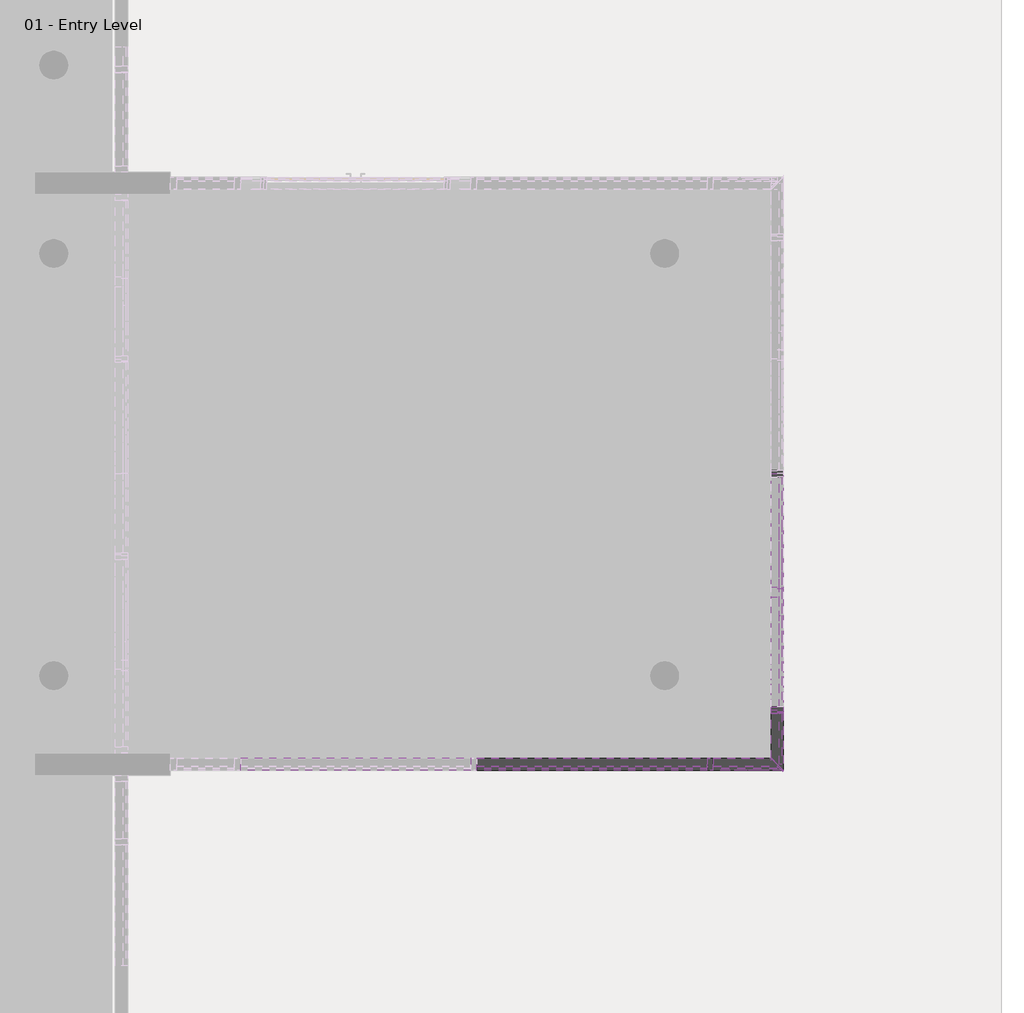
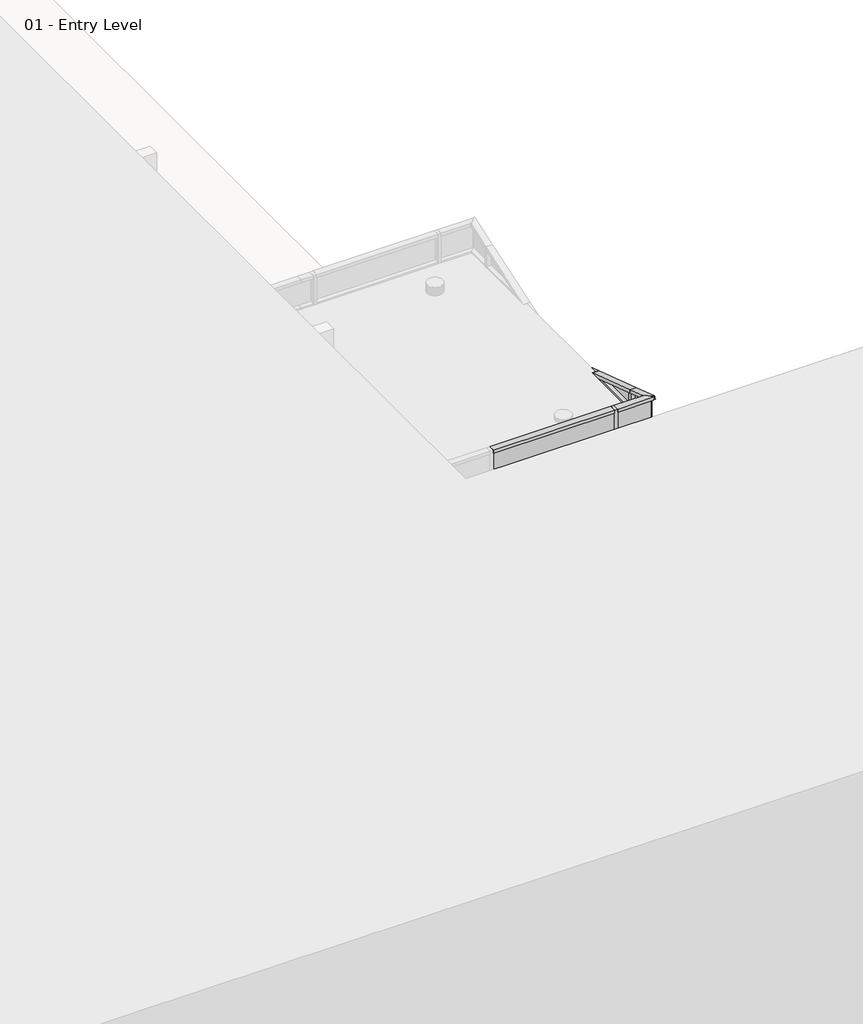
# One storey, part 14 of 35: 79 members, 48 plates.
"""IFC4 building model written with IfcOpenShell, lengths in millimetres."""

from ifc_helpers import new_model, si_unit, origin, place, context, project, spatial, transform, mapped, element, save
from components import member_6e77e263, member_b2bde9e6, member_89bfb2f9, member_7bb0cd3e, member_fce4fd76, member_659f2ef3, member_4067c595, member_9ea90918, member_7a68eee0, member_f22891ba, member_f7040936, member_db3c5f50, member_d798ba6b, system_panel_glazed_1068a10c, system_panel_glazed_a178916c, system_panel_glazed_dff65941, system_panel_glazed_09644247, system_panel_glazed_ee7bb25c, system_panel_glazed_b5016a42, system_panel_glazed_300f1d59, system_panel_glazed_afefc162, system_panel_glazed_c252a688

model = new_model("IFC4")

# Units and contexts
model_context = context("Model", 3, world=origin())
ifc_project = project(units=[si_unit("LENGTHUNIT", "METRE", prefix="MILLI")], contexts=[model_context])

# Site, building, storey
site = spatial("IfcSite", under=ifc_project)
building = spatial("IfcBuilding", under=site)
storey = spatial("IfcBuildingStorey", under=building, Name="01 - Entry Level", Elevation=0.0)

# Members
placement = place(None, origin())
member_shape = member_6e77e263(model_context)
element("IfcMember", 1, ObjectType="Rectangular Mullion : 2.5\" x 5\" rectangular", at=placement, inside=storey, context=model_context, shape_type="MappedRepresentation", body=[
    mapped(member_shape, transform((23947.0115197, 19548.4, 0.0), x_axis=(0.0, 1.0, 0.0), y_axis=(1.0, 0.0, 0.0), z_axis=(0.0, 0.0, -1.0))),
])
element("IfcMember", 2, ObjectType="Rectangular Mullion : 2.5\" x 5\" rectangular", at=placement, inside=storey, context=model_context, shape_type="MappedRepresentation", body=[
    mapped(member_shape, transform((23256.3615197, 16551.2, 0.0), x_axis=(1.0, 0.0, 0.0), y_axis=(0.0, -1.0, 0.0), z_axis=(0.0, 0.0, -1.0))),
])
element("IfcMember", 3, ObjectType="Rectangular Mullion : 2.5\" x 5\" rectangular", at=placement, inside=storey, context=model_context, shape_type="MappedRepresentation", body=[
    mapped(member_shape, transform((23947.0115197, 17110.0, 0.0), x_axis=(0.0, 1.0, 0.0), y_axis=(1.0, 0.0, 0.0), z_axis=(0.0, 0.0, -1.0))),
])
element("IfcMember", 4, ObjectType="Rectangular Mullion : 2.5\" x 5\" rectangular", at=placement, inside=storey, context=model_context, shape_type="MappedRepresentation", body=[
    mapped(member_shape, transform((23947.0115197, 19548.4, 609.6), x_axis=(0.0, 1.0, 0.0), y_axis=(1.0, 0.0, 0.0), z_axis=(0.0, 0.0, -1.0))),
])
element("IfcMember", 5, ObjectType="Rectangular Mullion : 2.5\" x 5\" rectangular", at=placement, inside=storey, context=model_context, shape_type="MappedRepresentation", body=[
    mapped(member_shape, transform((23947.0115197, 19548.4, 1219.2), x_axis=(0.0, 1.0, 0.0), y_axis=(1.0, 0.0, 0.0), z_axis=(0.0, 0.0, -1.0))),
])
element("IfcMember", 6, ObjectType="Rectangular Mullion : 2.5\" x 5\" rectangular", at=placement, inside=storey, context=model_context, shape_type="MappedRepresentation", body=[
    mapped(member_shape, transform((23947.0115197, 19548.4, 1828.8), x_axis=(0.0, 1.0, 0.0), y_axis=(1.0, 0.0, 0.0), z_axis=(0.0, 0.0, -1.0))),
])
element("IfcMember", 7, ObjectType="Rectangular Mullion : 2.5\" x 5\" rectangular", at=placement, inside=storey, context=model_context, shape_type="MappedRepresentation", body=[
    mapped(member_shape, transform((23947.0115197, 19548.4, 2438.4), x_axis=(0.0, 1.0, 0.0), y_axis=(1.0, 0.0, 0.0), z_axis=(0.0, 0.0, -1.0))),
])
element("IfcMember", 8, ObjectType="Rectangular Mullion : 2.5\" x 5\" rectangular", at=placement, inside=storey, context=model_context, shape_type="MappedRepresentation", body=[
    mapped(member_shape, transform((23947.0115197, 19548.4, 3048.0), x_axis=(0.0, 1.0, 0.0), y_axis=(1.0, 0.0, 0.0), z_axis=(0.0, 0.0, -1.0))),
])
element("IfcMember", 9, ObjectType="Rectangular Mullion : 2.5\" x 5\" rectangular", at=placement, inside=storey, context=model_context, shape_type="MappedRepresentation", body=[
    mapped(member_shape, transform((23256.3615197, 16551.2, 609.6), x_axis=(1.0, 0.0, 0.0), y_axis=(0.0, -1.0, 0.0), z_axis=(0.0, 0.0, -1.0))),
])
element("IfcMember", 10, ObjectType="Rectangular Mullion : 2.5\" x 5\" rectangular", at=placement, inside=storey, context=model_context, shape_type="MappedRepresentation", body=[
    mapped(member_shape, transform((23256.3615197, 16551.2, 1219.2), x_axis=(1.0, 0.0, 0.0), y_axis=(0.0, -1.0, 0.0), z_axis=(0.0, 0.0, -1.0))),
])
element("IfcMember", 11, ObjectType="Rectangular Mullion : 2.5\" x 5\" rectangular", at=placement, inside=storey, context=model_context, shape_type="MappedRepresentation", body=[
    mapped(member_shape, transform((23256.3615197, 16551.2, 1828.8), x_axis=(1.0, 0.0, 0.0), y_axis=(0.0, -1.0, 0.0), z_axis=(0.0, 0.0, -1.0))),
])
element("IfcMember", 12, ObjectType="Rectangular Mullion : 2.5\" x 5\" rectangular", at=placement, inside=storey, context=model_context, shape_type="MappedRepresentation", body=[
    mapped(member_shape, transform((23256.3615197, 16551.2, 2438.4), x_axis=(1.0, 0.0, 0.0), y_axis=(0.0, -1.0, 0.0), z_axis=(0.0, 0.0, -1.0))),
])
element("IfcMember", 13, ObjectType="Rectangular Mullion : 2.5\" x 5\" rectangular", at=placement, inside=storey, context=model_context, shape_type="MappedRepresentation", body=[
    mapped(member_shape, transform((23256.3615197, 16551.2, 3048.0), x_axis=(1.0, 0.0, 0.0), y_axis=(0.0, -1.0, 0.0), z_axis=(0.0, 0.0, -1.0))),
])
element("IfcMember", 14, ObjectType="Rectangular Mullion : 2.5\" x 5\" rectangular", at=placement, inside=storey, context=model_context, shape_type="MappedRepresentation", body=[
    mapped(member_shape, transform((23947.0115197, 17110.0, 609.6), x_axis=(0.0, 1.0, 0.0), y_axis=(1.0, 0.0, 0.0), z_axis=(0.0, 0.0, -1.0))),
])
element("IfcMember", 15, ObjectType="Rectangular Mullion : 2.5\" x 5\" rectangular", at=placement, inside=storey, context=model_context, shape_type="MappedRepresentation", body=[
    mapped(member_shape, transform((23947.0115197, 17110.0, 1219.2), x_axis=(0.0, 1.0, 0.0), y_axis=(1.0, 0.0, 0.0), z_axis=(0.0, 0.0, -1.0))),
])
element("IfcMember", 16, ObjectType="Rectangular Mullion : 2.5\" x 5\" rectangular", at=placement, inside=storey, context=model_context, shape_type="MappedRepresentation", body=[
    mapped(member_shape, transform((23947.0115197, 17110.0, 1828.8), x_axis=(0.0, 1.0, 0.0), y_axis=(1.0, 0.0, 0.0), z_axis=(0.0, 0.0, -1.0))),
])
element("IfcMember", 17, ObjectType="Rectangular Mullion : 2.5\" x 5\" rectangular", at=placement, inside=storey, context=model_context, shape_type="MappedRepresentation", body=[
    mapped(member_shape, transform((23947.0115197, 17110.0, 2438.4), x_axis=(0.0, 1.0, 0.0), y_axis=(1.0, 0.0, 0.0), z_axis=(0.0, 0.0, -1.0))),
])
element("IfcMember", 18, ObjectType="Rectangular Mullion : 2.5\" x 5\" rectangular", at=placement, inside=storey, context=model_context, shape_type="MappedRepresentation", body=[
    mapped(member_shape, transform((23947.0115197, 17110.0, 3048.0), x_axis=(0.0, 1.0, 0.0), y_axis=(1.0, 0.0, 0.0), z_axis=(0.0, 0.0, -1.0))),
])
element("IfcMember", 19, ObjectType="Rectangular Mullion : 2.5\" x 5\" rectangular", at=placement, inside=storey, context=model_context, shape_type="MappedRepresentation", body=[
    mapped(member_shape, transform((23947.0115197, 17110.0, 3657.6), x_axis=(0.0, 1.0, 0.0), y_axis=(1.0, 0.0, 0.0), z_axis=(0.0, 0.0, -1.0))),
])
element("IfcMember", 20, ObjectType="Rectangular Mullion : 2.5\" x 5\" rectangular", at=placement, inside=storey, context=model_context, shape_type="MappedRepresentation", body=[
    mapped(member_shape, transform((23947.0115197, 17110.0, 4267.2), x_axis=(0.0, 1.0, 0.0), y_axis=(1.0, 0.0, 0.0), z_axis=(0.0, 0.0, -1.0))),
])
element("IfcMember", 21, ObjectType="Rectangular Mullion : 2.5\" x 5\" rectangular", at=placement, inside=storey, context=model_context, shape_type="MappedRepresentation", body=[
    mapped(member_shape, transform((23947.0115197, 17110.0, 4876.8), x_axis=(0.0, 1.0, 0.0), y_axis=(1.0, 0.0, 0.0), z_axis=(0.0, 0.0, -1.0))),
])
element("IfcMember", 22, ObjectType="Rectangular Mullion : 2.5\" x 5\" rectangular", at=placement, inside=storey, context=model_context, shape_type="MappedRepresentation", body=[
    mapped(member_shape, transform((23947.0115197, 17110.0, 5486.4), x_axis=(0.0, 1.0, 0.0), y_axis=(1.0, 0.0, 0.0), z_axis=(0.0, 0.0, -1.0))),
])
element("IfcMember", 23, ObjectType="Rectangular Mullion : 2.5\" x 5\" rectangular", at=placement, inside=storey, context=model_context, shape_type="MappedRepresentation", body=[
    mapped(member_shape, transform((23947.0115197, 17110.0, 6096.0), x_axis=(0.0, 1.0, 0.0), y_axis=(1.0, 0.0, 0.0), z_axis=(0.0, 0.0, -1.0))),
])
element("IfcMember", 24, ObjectType="Rectangular Mullion : 2.5\" x 5\" rectangular", at=placement, inside=storey, context=model_context, shape_type="MappedRepresentation", body=[
    mapped(member_shape, transform((23256.3615197, 16551.2, 3657.6), x_axis=(1.0, 0.0, 0.0), y_axis=(0.0, -1.0, 0.0), z_axis=(0.0, 0.0, -1.0))),
])
element("IfcMember", 25, ObjectType="Rectangular Mullion : 2.5\" x 5\" rectangular", at=placement, inside=storey, context=model_context, shape_type="MappedRepresentation", body=[
    mapped(member_shape, transform((23256.3615197, 16551.2, 4267.2), x_axis=(1.0, 0.0, 0.0), y_axis=(0.0, -1.0, 0.0), z_axis=(0.0, 0.0, -1.0))),
])
element("IfcMember", 26, ObjectType="Rectangular Mullion : 2.5\" x 5\" rectangular", at=placement, inside=storey, context=model_context, shape_type="MappedRepresentation", body=[
    mapped(member_shape, transform((23256.3615197, 16551.2, 4876.8), x_axis=(1.0, 0.0, 0.0), y_axis=(0.0, -1.0, 0.0), z_axis=(0.0, 0.0, -1.0))),
])
element("IfcMember", 27, ObjectType="Rectangular Mullion : 2.5\" x 5\" rectangular", at=placement, inside=storey, context=model_context, shape_type="MappedRepresentation", body=[
    mapped(member_shape, transform((23256.3615197, 16551.2, 5486.4), x_axis=(1.0, 0.0, 0.0), y_axis=(0.0, -1.0, 0.0), z_axis=(0.0, 0.0, -1.0))),
])
element("IfcMember", 28, ObjectType="Rectangular Mullion : 2.5\" x 5\" rectangular", at=placement, inside=storey, context=model_context, shape_type="MappedRepresentation", body=[
    mapped(member_shape, transform((23256.3615197, 16551.2, 6096.0), x_axis=(1.0, 0.0, 0.0), y_axis=(0.0, -1.0, 0.0), z_axis=(0.0, 0.0, -1.0))),
])
member_2_shape = member_b2bde9e6(model_context)
element("IfcMember", 29, ObjectType="Rectangular Mullion : 2.5\" x 5\" rectangular", at=placement, inside=storey, context=model_context, shape_type="MappedRepresentation", body=[
    mapped(member_2_shape, transform((23947.0115197, 19580.15, 0.0), x_axis=(0.0, 0.0, -1.0), y_axis=(1.0, 0.0, 0.0), z_axis=(0.0, -1.0, 0.0))),
])
element("IfcMember", 30, ObjectType="Rectangular Mullion : 2.5\" x 5\" rectangular", at=placement, inside=storey, context=model_context, shape_type="MappedRepresentation", body=[
    mapped(member_2_shape, transform((23947.0115197, 17141.75, 0.0), x_axis=(0.0, 0.0, -1.0), y_axis=(1.0, 0.0, 0.0), z_axis=(0.0, -1.0, 0.0))),
])
member_3_shape = member_89bfb2f9(model_context)
element("IfcMember", 31, ObjectType="Rectangular Mullion : 2.5\" x 5\" rectangular", at=placement, inside=storey, context=model_context, shape_type="MappedRepresentation", body=[
    mapped(member_3_shape, transform((23224.6115197, 16551.2, 609.6), x_axis=(0.0, 0.0, 1.0), y_axis=(0.0, -1.0, 0.0), z_axis=(1.0, 0.0, 0.0))),
])
element("IfcMember", 32, ObjectType="Rectangular Mullion : 2.5\" x 5\" rectangular", at=placement, inside=storey, context=model_context, shape_type="MappedRepresentation", body=[
    mapped(member_3_shape, transform((23224.6115197, 16551.2, 1219.2), x_axis=(0.0, 0.0, 1.0), y_axis=(0.0, -1.0, 0.0), z_axis=(1.0, 0.0, 0.0))),
])
element("IfcMember", 33, ObjectType="Rectangular Mullion : 2.5\" x 5\" rectangular", at=placement, inside=storey, context=model_context, shape_type="MappedRepresentation", body=[
    mapped(member_3_shape, transform((23224.6115197, 16551.2, 1828.8), x_axis=(0.0, 0.0, 1.0), y_axis=(0.0, -1.0, 0.0), z_axis=(1.0, 0.0, 0.0))),
])
element("IfcMember", 34, ObjectType="Rectangular Mullion : 2.5\" x 5\" rectangular", at=placement, inside=storey, context=model_context, shape_type="MappedRepresentation", body=[
    mapped(member_3_shape, transform((23224.6115197, 16551.2, 2438.4), x_axis=(0.0, 0.0, 1.0), y_axis=(0.0, -1.0, 0.0), z_axis=(1.0, 0.0, 0.0))),
])
element("IfcMember", 35, ObjectType="Rectangular Mullion : 2.5\" x 5\" rectangular", at=placement, inside=storey, context=model_context, shape_type="MappedRepresentation", body=[
    mapped(member_3_shape, transform((23224.6115197, 16551.2, 3048.0), x_axis=(0.0, 0.0, 1.0), y_axis=(0.0, -1.0, 0.0), z_axis=(1.0, 0.0, 0.0))),
])
element("IfcMember", 36, ObjectType="Rectangular Mullion : 2.5\" x 5\" rectangular", at=placement, inside=storey, context=model_context, shape_type="MappedRepresentation", body=[
    mapped(member_3_shape, transform((20786.2115197, 16551.2, 3657.6), x_axis=(0.0, 0.0, 1.0), y_axis=(0.0, -1.0, 0.0), z_axis=(1.0, 0.0, 0.0))),
])
element("IfcMember", 37, ObjectType="Rectangular Mullion : 2.5\" x 5\" rectangular", at=placement, inside=storey, context=model_context, shape_type="MappedRepresentation", body=[
    mapped(member_3_shape, transform((23224.6115197, 16551.2, 3657.6), x_axis=(0.0, 0.0, 1.0), y_axis=(0.0, -1.0, 0.0), z_axis=(1.0, 0.0, 0.0))),
])
element("IfcMember", 38, ObjectType="Rectangular Mullion : 2.5\" x 5\" rectangular", at=placement, inside=storey, context=model_context, shape_type="MappedRepresentation", body=[
    mapped(member_3_shape, transform((20786.2115197, 16551.2, 4267.2), x_axis=(0.0, 0.0, 1.0), y_axis=(0.0, -1.0, 0.0), z_axis=(1.0, 0.0, 0.0))),
])
element("IfcMember", 39, ObjectType="Rectangular Mullion : 2.5\" x 5\" rectangular", at=placement, inside=storey, context=model_context, shape_type="MappedRepresentation", body=[
    mapped(member_3_shape, transform((23224.6115197, 16551.2, 4267.2), x_axis=(0.0, 0.0, 1.0), y_axis=(0.0, -1.0, 0.0), z_axis=(1.0, 0.0, 0.0))),
])
element("IfcMember", 40, ObjectType="Rectangular Mullion : 2.5\" x 5\" rectangular", at=placement, inside=storey, context=model_context, shape_type="MappedRepresentation", body=[
    mapped(member_3_shape, transform((20786.2115197, 16551.2, 4876.8), x_axis=(0.0, 0.0, 1.0), y_axis=(0.0, -1.0, 0.0), z_axis=(1.0, 0.0, 0.0))),
])
element("IfcMember", 41, ObjectType="Rectangular Mullion : 2.5\" x 5\" rectangular", at=placement, inside=storey, context=model_context, shape_type="MappedRepresentation", body=[
    mapped(member_3_shape, transform((23224.6115197, 16551.2, 4876.8), x_axis=(0.0, 0.0, 1.0), y_axis=(0.0, -1.0, 0.0), z_axis=(1.0, 0.0, 0.0))),
])
element("IfcMember", 42, ObjectType="Rectangular Mullion : 2.5\" x 5\" rectangular", at=placement, inside=storey, context=model_context, shape_type="MappedRepresentation", body=[
    mapped(member_3_shape, transform((20786.2115197, 16551.2, 5486.4), x_axis=(0.0, 0.0, 1.0), y_axis=(0.0, -1.0, 0.0), z_axis=(1.0, 0.0, 0.0))),
])
element("IfcMember", 43, ObjectType="Rectangular Mullion : 2.5\" x 5\" rectangular", at=placement, inside=storey, context=model_context, shape_type="MappedRepresentation", body=[
    mapped(member_3_shape, transform((23224.6115197, 16551.2, 5486.4), x_axis=(0.0, 0.0, 1.0), y_axis=(0.0, -1.0, 0.0), z_axis=(1.0, 0.0, 0.0))),
])
element("IfcMember", 44, ObjectType="Rectangular Mullion : 2.5\" x 5\" rectangular", at=placement, inside=storey, context=model_context, shape_type="MappedRepresentation", body=[
    mapped(member_3_shape, transform((20786.2115197, 16551.2, 6096.0), x_axis=(0.0, 0.0, 1.0), y_axis=(0.0, -1.0, 0.0), z_axis=(1.0, 0.0, 0.0))),
])
element("IfcMember", 45, ObjectType="Rectangular Mullion : 2.5\" x 5\" rectangular", at=placement, inside=storey, context=model_context, shape_type="MappedRepresentation", body=[
    mapped(member_3_shape, transform((23224.6115197, 16551.2, 6096.0), x_axis=(0.0, 0.0, 1.0), y_axis=(0.0, -1.0, 0.0), z_axis=(1.0, 0.0, 0.0))),
])
element("IfcMember", 46, ObjectType="Rectangular Mullion : 2.5\" x 5\" rectangular", at=placement, inside=storey, context=model_context, shape_type="MappedRepresentation", body=[
    mapped(member_3_shape, transform((20786.2115197, 16551.2, 6705.6), x_axis=(0.0, 0.0, 1.0), y_axis=(0.0, -1.0, 0.0), z_axis=(1.0, 0.0, 0.0))),
])
element("IfcMember", 47, ObjectType="Rectangular Mullion : 2.5\" x 5\" rectangular", at=placement, inside=storey, context=model_context, shape_type="MappedRepresentation", body=[
    mapped(member_3_shape, transform((23224.6115197, 16551.2, 6705.6), x_axis=(0.0, 0.0, 1.0), y_axis=(0.0, -1.0, 0.0), z_axis=(1.0, 0.0, 0.0))),
])
member_4_shape = member_7bb0cd3e(model_context)
element("IfcMember", 48, ObjectType="Rectangular Mullion : 2.5\" x 5\" rectangular", at=placement, inside=storey, context=model_context, shape_type="MappedRepresentation", body=[
    mapped(member_4_shape, transform((23947.0115197, 19548.4, 6316.1333333), x_axis=(0.0, 0.316227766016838, 0.9486832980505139), y_axis=(1.0, 0.0, 0.0), z_axis=(0.0, 0.9486832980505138, -0.31622776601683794))),
])
member_5_shape = member_fce4fd76(model_context)
element("IfcMember", 49, ObjectType="Rectangular Mullion : 2.5\" x 5\" rectangular", at=placement, inside=storey, context=model_context, shape_type="MappedRepresentation", body=[
    mapped(member_5_shape, transform((23947.0115197, 18380.0, 6705.6), x_axis=(0.0, 0.31622776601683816, 0.9486832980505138), y_axis=(1.0, 0.0, 0.0), z_axis=(0.0, 0.9486832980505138, -0.31622776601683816))),
])
member_6_shape = member_659f2ef3(model_context)
element("IfcMember", 50, ObjectType="Rectangular Mullion : 2.5\" x 5\" rectangular", at=placement, inside=storey, context=model_context, shape_type="MappedRepresentation", body=[
    mapped(member_6_shape, transform((23947.0115197, 18380.0, 6705.6), x_axis=(0.0, 0.0, 1.0), y_axis=(1.0, 0.0, 0.0), z_axis=(0.0, 1.0, 0.0))),
])
member_7_shape = member_4067c595(model_context)
element("IfcMember", 51, ObjectType="Rectangular Mullion : 2.5\" x 5\" rectangular", at=placement, inside=storey, context=model_context, shape_type="MappedRepresentation", body=[
    mapped(member_7_shape, transform((23947.0115197, 17110.0, 6705.6), x_axis=(0.0, 1.0, 0.0), y_axis=(1.0, 0.0, 0.0), z_axis=(0.0, 0.0, -1.0))),
])
element("IfcMember", 52, ObjectType="Rectangular Mullion : 2.5\" x 5\" rectangular", at=placement, inside=storey, context=model_context, shape_type="MappedRepresentation", body=[
    mapped(member_2_shape, transform((23224.6115197, 16551.2, 7315.2), x_axis=(0.0, 0.0, 1.0), y_axis=(0.0, -1.0, 0.0), z_axis=(1.0, 0.0, 0.0))),
])
element("IfcMember", 53, ObjectType="Rectangular Mullion : 2.5\" x 5\" rectangular", at=placement, inside=storey, context=model_context, shape_type="MappedRepresentation", body=[
    mapped(member_shape, transform((23256.3615197, 16551.2, 6705.6), x_axis=(1.0, 0.0, 0.0), y_axis=(0.0, -1.0, 0.0), z_axis=(0.0, 0.0, -1.0))),
])
member_8_shape = member_9ea90918(model_context)
element("IfcMember", 54, ObjectType="Rectangular Mullion : 2.5\" x 5\" rectangular", at=placement, inside=storey, context=model_context, shape_type="MappedRepresentation", body=[
    mapped(member_8_shape, transform((23947.0115197, 16551.2, 0.0), x_axis=(0.0, 0.0, -1.0), y_axis=(1.0, 0.0, 0.0), z_axis=(0.0, -1.0, 0.0))),
])
member_9_shape = member_7a68eee0(model_context)
element("IfcMember", 55, ObjectType="Rectangular Mullion : 2.5\" x 5\" rectangular", at=placement, inside=storey, context=model_context, shape_type="MappedRepresentation", body=[
    mapped(member_9_shape, transform((23288.1115197, 16551.2, 0.0), x_axis=(0.0, 0.0, -1.0), y_axis=(0.0, -1.0, 0.0), z_axis=(-1.0, 0.0, 0.0))),
])
member_10_shape = member_f22891ba(model_context)
element("IfcMember", 56, ObjectType="Rectangular Mullion : 2.5\" x 5\" rectangular", at=placement, inside=storey, context=model_context, shape_type="MappedRepresentation", body=[
    mapped(member_10_shape, transform((23947.0115197, 17078.25, 609.6), x_axis=(0.0, 0.0, 1.0), y_axis=(1.0, 0.0, 0.0), z_axis=(0.0, 1.0, 0.0))),
])
element("IfcMember", 57, ObjectType="Rectangular Mullion : 2.5\" x 5\" rectangular", at=placement, inside=storey, context=model_context, shape_type="MappedRepresentation", body=[
    mapped(member_10_shape, transform((23947.0115197, 17078.25, 1219.2), x_axis=(0.0, 0.0, 1.0), y_axis=(1.0, 0.0, 0.0), z_axis=(0.0, 1.0, 0.0))),
])
element("IfcMember", 58, ObjectType="Rectangular Mullion : 2.5\" x 5\" rectangular", at=placement, inside=storey, context=model_context, shape_type="MappedRepresentation", body=[
    mapped(member_10_shape, transform((23947.0115197, 17078.25, 1828.8), x_axis=(0.0, 0.0, 1.0), y_axis=(1.0, 0.0, 0.0), z_axis=(0.0, 1.0, 0.0))),
])
element("IfcMember", 59, ObjectType="Rectangular Mullion : 2.5\" x 5\" rectangular", at=placement, inside=storey, context=model_context, shape_type="MappedRepresentation", body=[
    mapped(member_10_shape, transform((23947.0115197, 17078.25, 2438.4), x_axis=(0.0, 0.0, 1.0), y_axis=(1.0, 0.0, 0.0), z_axis=(0.0, 1.0, 0.0))),
])
element("IfcMember", 60, ObjectType="Rectangular Mullion : 2.5\" x 5\" rectangular", at=placement, inside=storey, context=model_context, shape_type="MappedRepresentation", body=[
    mapped(member_10_shape, transform((23947.0115197, 17078.25, 3048.0), x_axis=(0.0, 0.0, 1.0), y_axis=(1.0, 0.0, 0.0), z_axis=(0.0, 1.0, 0.0))),
])
element("IfcMember", 61, ObjectType="Rectangular Mullion : 2.5\" x 5\" rectangular", at=placement, inside=storey, context=model_context, shape_type="MappedRepresentation", body=[
    mapped(member_10_shape, transform((23947.0115197, 17078.25, 3657.6), x_axis=(0.0, 0.0, 1.0), y_axis=(1.0, 0.0, 0.0), z_axis=(0.0, 1.0, 0.0))),
])
element("IfcMember", 62, ObjectType="Rectangular Mullion : 2.5\" x 5\" rectangular", at=placement, inside=storey, context=model_context, shape_type="MappedRepresentation", body=[
    mapped(member_10_shape, transform((23947.0115197, 17078.25, 4267.2), x_axis=(0.0, 0.0, 1.0), y_axis=(1.0, 0.0, 0.0), z_axis=(0.0, 1.0, 0.0))),
])
element("IfcMember", 63, ObjectType="Rectangular Mullion : 2.5\" x 5\" rectangular", at=placement, inside=storey, context=model_context, shape_type="MappedRepresentation", body=[
    mapped(member_10_shape, transform((23947.0115197, 17078.25, 4876.8), x_axis=(0.0, 0.0, 1.0), y_axis=(1.0, 0.0, 0.0), z_axis=(0.0, 1.0, 0.0))),
])
element("IfcMember", 64, ObjectType="Rectangular Mullion : 2.5\" x 5\" rectangular", at=placement, inside=storey, context=model_context, shape_type="MappedRepresentation", body=[
    mapped(member_10_shape, transform((23947.0115197, 17078.25, 5486.4), x_axis=(0.0, 0.0, 1.0), y_axis=(1.0, 0.0, 0.0), z_axis=(0.0, 1.0, 0.0))),
])
element("IfcMember", 65, ObjectType="Rectangular Mullion : 2.5\" x 5\" rectangular", at=placement, inside=storey, context=model_context, shape_type="MappedRepresentation", body=[
    mapped(member_10_shape, transform((23947.0115197, 17078.25, 6096.0), x_axis=(0.0, 0.0, 1.0), y_axis=(1.0, 0.0, 0.0), z_axis=(0.0, 1.0, 0.0))),
])
element("IfcMember", 66, ObjectType="Rectangular Mullion : 2.5\" x 5\" rectangular", at=placement, inside=storey, context=model_context, shape_type="MappedRepresentation", body=[
    mapped(member_10_shape, transform((23947.0115197, 17078.25, 6705.6), x_axis=(0.0, 0.0, 1.0), y_axis=(1.0, 0.0, 0.0), z_axis=(0.0, 1.0, 0.0))),
])
member_11_shape = member_f7040936(model_context)
element("IfcMember", 67, ObjectType="Rectangular Mullion : 2.5\" x 5\" rectangular", at=placement, inside=storey, context=model_context, shape_type="MappedRepresentation", body=[
    mapped(member_11_shape, transform((23947.0115197, 16551.2, 609.6), x_axis=(0.0, 0.0, 1.0), y_axis=(0.0, -1.0, 0.0), z_axis=(1.0, 0.0, 0.0))),
])
element("IfcMember", 68, ObjectType="Rectangular Mullion : 2.5\" x 5\" rectangular", at=placement, inside=storey, context=model_context, shape_type="MappedRepresentation", body=[
    mapped(member_11_shape, transform((23947.0115197, 16551.2, 1219.2), x_axis=(0.0, 0.0, 1.0), y_axis=(0.0, -1.0, 0.0), z_axis=(1.0, 0.0, 0.0))),
])
element("IfcMember", 69, ObjectType="Rectangular Mullion : 2.5\" x 5\" rectangular", at=placement, inside=storey, context=model_context, shape_type="MappedRepresentation", body=[
    mapped(member_11_shape, transform((23947.0115197, 16551.2, 1828.8), x_axis=(0.0, 0.0, 1.0), y_axis=(0.0, -1.0, 0.0), z_axis=(1.0, 0.0, 0.0))),
])
element("IfcMember", 70, ObjectType="Rectangular Mullion : 2.5\" x 5\" rectangular", at=placement, inside=storey, context=model_context, shape_type="MappedRepresentation", body=[
    mapped(member_11_shape, transform((23947.0115197, 16551.2, 2438.4), x_axis=(0.0, 0.0, 1.0), y_axis=(0.0, -1.0, 0.0), z_axis=(1.0, 0.0, 0.0))),
])
element("IfcMember", 71, ObjectType="Rectangular Mullion : 2.5\" x 5\" rectangular", at=placement, inside=storey, context=model_context, shape_type="MappedRepresentation", body=[
    mapped(member_11_shape, transform((23947.0115197, 16551.2, 3048.0), x_axis=(0.0, 0.0, 1.0), y_axis=(0.0, -1.0, 0.0), z_axis=(1.0, 0.0, 0.0))),
])
element("IfcMember", 72, ObjectType="Rectangular Mullion : 2.5\" x 5\" rectangular", at=placement, inside=storey, context=model_context, shape_type="MappedRepresentation", body=[
    mapped(member_11_shape, transform((23947.0115197, 16551.2, 3657.6), x_axis=(0.0, 0.0, 1.0), y_axis=(0.0, -1.0, 0.0), z_axis=(1.0, 0.0, 0.0))),
])
element("IfcMember", 73, ObjectType="Rectangular Mullion : 2.5\" x 5\" rectangular", at=placement, inside=storey, context=model_context, shape_type="MappedRepresentation", body=[
    mapped(member_11_shape, transform((23947.0115197, 16551.2, 4267.2), x_axis=(0.0, 0.0, 1.0), y_axis=(0.0, -1.0, 0.0), z_axis=(1.0, 0.0, 0.0))),
])
element("IfcMember", 74, ObjectType="Rectangular Mullion : 2.5\" x 5\" rectangular", at=placement, inside=storey, context=model_context, shape_type="MappedRepresentation", body=[
    mapped(member_11_shape, transform((23947.0115197, 16551.2, 4876.8), x_axis=(0.0, 0.0, 1.0), y_axis=(0.0, -1.0, 0.0), z_axis=(1.0, 0.0, 0.0))),
])
element("IfcMember", 75, ObjectType="Rectangular Mullion : 2.5\" x 5\" rectangular", at=placement, inside=storey, context=model_context, shape_type="MappedRepresentation", body=[
    mapped(member_11_shape, transform((23947.0115197, 16551.2, 5486.4), x_axis=(0.0, 0.0, 1.0), y_axis=(0.0, -1.0, 0.0), z_axis=(1.0, 0.0, 0.0))),
])
element("IfcMember", 76, ObjectType="Rectangular Mullion : 2.5\" x 5\" rectangular", at=placement, inside=storey, context=model_context, shape_type="MappedRepresentation", body=[
    mapped(member_11_shape, transform((23947.0115197, 16551.2, 6096.0), x_axis=(0.0, 0.0, 1.0), y_axis=(0.0, -1.0, 0.0), z_axis=(1.0, 0.0, 0.0))),
])
element("IfcMember", 77, ObjectType="Rectangular Mullion : 2.5\" x 5\" rectangular", at=placement, inside=storey, context=model_context, shape_type="MappedRepresentation", body=[
    mapped(member_11_shape, transform((23947.0115197, 16551.2, 6705.6), x_axis=(0.0, 0.0, 1.0), y_axis=(0.0, -1.0, 0.0), z_axis=(1.0, 0.0, 0.0))),
])
member_12_shape = member_db3c5f50(model_context)
element("IfcMember", 78, ObjectType="Rectangular Mullion : 2.5\" x 5\" rectangular", at=placement, inside=storey, context=model_context, shape_type="MappedRepresentation", body=[
    mapped(member_12_shape, transform((23947.0115197, 17110.0, 7128.9333333), x_axis=(0.0, 0.31622776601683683, 0.9486832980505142), y_axis=(1.0, 0.0, 0.0), z_axis=(0.0, 0.9486832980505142, -0.31622776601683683))),
])
member_13_shape = member_d798ba6b(model_context)
element("IfcMember", 79, ObjectType="Rectangular Mullion : 2.5\" x 5\" rectangular", at=placement, inside=storey, context=model_context, shape_type="MappedRepresentation", body=[
    mapped(member_13_shape, transform((23947.0115197, 16551.2, 7315.2), x_axis=(0.0, 0.0, 1.0), y_axis=(0.0, -1.0, 0.0), z_axis=(1.0, 0.0, 0.0))),
])

# Plates
system_panel_glazed_shape = system_panel_glazed_1068a10c(model_context)
element("IfcPlate", 80, ObjectType="System Panel : Glazed", at=placement, inside=storey, context=model_context, shape_type="MappedRepresentation", body=[
    mapped(system_panel_glazed_shape, transform((22037.1615197, 16551.2, 63.5), x_axis=(1.0, 0.0, 0.0), y_axis=(0.0, 1.0, 0.0), z_axis=(0.0, 0.0, 1.0))),
])
element("IfcPlate", 81, ObjectType="System Panel : Glazed", at=placement, inside=storey, context=model_context, shape_type="MappedRepresentation", body=[
    mapped(system_panel_glazed_shape, transform((23947.0115197, 18329.2, 63.5), x_axis=(0.0, 1.0, 0.0), y_axis=(-1.0, 0.0, 0.0), z_axis=(0.0, 0.0, 1.0))),
])
element("IfcPlate", 82, ObjectType="System Panel : Glazed", at=placement, inside=storey, context=model_context, shape_type="MappedRepresentation", body=[
    mapped(system_panel_glazed_shape, transform((22037.1615197, 16551.2, 6737.35), x_axis=(1.0, 0.0, 0.0), y_axis=(0.0, 1.0, 0.0), z_axis=(0.0, 0.0, 1.0))),
])
system_panel_glazed_2_shape = system_panel_glazed_a178916c(model_context)
element("IfcPlate", 83, ObjectType="System Panel : Glazed", at=placement, inside=storey, context=model_context, shape_type="MappedRepresentation", body=[
    mapped(system_panel_glazed_2_shape, transform((22037.1615197, 16551.2, 641.35), x_axis=(1.0, 0.0, 0.0), y_axis=(0.0, 1.0, 0.0), z_axis=(0.0, 0.0, 1.0))),
])
element("IfcPlate", 84, ObjectType="System Panel : Glazed", at=placement, inside=storey, context=model_context, shape_type="MappedRepresentation", body=[
    mapped(system_panel_glazed_2_shape, transform((22037.1615197, 16551.2, 1250.95), x_axis=(1.0, 0.0, 0.0), y_axis=(0.0, 1.0, 0.0), z_axis=(0.0, 0.0, 1.0))),
])
element("IfcPlate", 85, ObjectType="System Panel : Glazed", at=placement, inside=storey, context=model_context, shape_type="MappedRepresentation", body=[
    mapped(system_panel_glazed_2_shape, transform((22037.1615197, 16551.2, 1860.55), x_axis=(1.0, 0.0, 0.0), y_axis=(0.0, 1.0, 0.0), z_axis=(0.0, 0.0, 1.0))),
])
element("IfcPlate", 86, ObjectType="System Panel : Glazed", at=placement, inside=storey, context=model_context, shape_type="MappedRepresentation", body=[
    mapped(system_panel_glazed_2_shape, transform((22037.1615197, 16551.2, 2470.15), x_axis=(1.0, 0.0, 0.0), y_axis=(0.0, 1.0, 0.0), z_axis=(0.0, 0.0, 1.0))),
])
element("IfcPlate", 87, ObjectType="System Panel : Glazed", at=placement, inside=storey, context=model_context, shape_type="MappedRepresentation", body=[
    mapped(system_panel_glazed_2_shape, transform((22037.1615197, 16551.2, 3079.75), x_axis=(1.0, 0.0, 0.0), y_axis=(0.0, 1.0, 0.0), z_axis=(0.0, 0.0, 1.0))),
])
element("IfcPlate", 88, ObjectType="System Panel : Glazed", at=placement, inside=storey, context=model_context, shape_type="MappedRepresentation", body=[
    mapped(system_panel_glazed_2_shape, transform((23947.0115197, 18329.2, 641.35), x_axis=(0.0, 1.0, 0.0), y_axis=(-1.0, 0.0, 0.0), z_axis=(0.0, 0.0, 1.0))),
])
element("IfcPlate", 89, ObjectType="System Panel : Glazed", at=placement, inside=storey, context=model_context, shape_type="MappedRepresentation", body=[
    mapped(system_panel_glazed_2_shape, transform((23947.0115197, 18329.2, 1250.95), x_axis=(0.0, 1.0, 0.0), y_axis=(-1.0, 0.0, 0.0), z_axis=(0.0, 0.0, 1.0))),
])
element("IfcPlate", 90, ObjectType="System Panel : Glazed", at=placement, inside=storey, context=model_context, shape_type="MappedRepresentation", body=[
    mapped(system_panel_glazed_2_shape, transform((23947.0115197, 18329.2, 1860.55), x_axis=(0.0, 1.0, 0.0), y_axis=(-1.0, 0.0, 0.0), z_axis=(0.0, 0.0, 1.0))),
])
element("IfcPlate", 91, ObjectType="System Panel : Glazed", at=placement, inside=storey, context=model_context, shape_type="MappedRepresentation", body=[
    mapped(system_panel_glazed_2_shape, transform((23947.0115197, 18329.2, 2470.15), x_axis=(0.0, 1.0, 0.0), y_axis=(-1.0, 0.0, 0.0), z_axis=(0.0, 0.0, 1.0))),
])
element("IfcPlate", 92, ObjectType="System Panel : Glazed", at=placement, inside=storey, context=model_context, shape_type="MappedRepresentation", body=[
    mapped(system_panel_glazed_2_shape, transform((23947.0115197, 18329.2, 3079.75), x_axis=(0.0, 1.0, 0.0), y_axis=(-1.0, 0.0, 0.0), z_axis=(0.0, 0.0, 1.0))),
])
element("IfcPlate", 93, ObjectType="System Panel : Glazed", at=placement, inside=storey, context=model_context, shape_type="MappedRepresentation", body=[
    mapped(system_panel_glazed_2_shape, transform((23947.0115197, 18329.2, 3689.35), x_axis=(0.0, 1.0, 0.0), y_axis=(-1.0, 0.0, 0.0), z_axis=(0.0, 0.0, 1.0))),
])
element("IfcPlate", 94, ObjectType="System Panel : Glazed", at=placement, inside=storey, context=model_context, shape_type="MappedRepresentation", body=[
    mapped(system_panel_glazed_2_shape, transform((23947.0115197, 18329.2, 4298.95), x_axis=(0.0, 1.0, 0.0), y_axis=(-1.0, 0.0, 0.0), z_axis=(0.0, 0.0, 1.0))),
])
element("IfcPlate", 95, ObjectType="System Panel : Glazed", at=placement, inside=storey, context=model_context, shape_type="MappedRepresentation", body=[
    mapped(system_panel_glazed_2_shape, transform((23947.0115197, 18329.2, 4908.55), x_axis=(0.0, 1.0, 0.0), y_axis=(-1.0, 0.0, 0.0), z_axis=(0.0, 0.0, 1.0))),
])
element("IfcPlate", 96, ObjectType="System Panel : Glazed", at=placement, inside=storey, context=model_context, shape_type="MappedRepresentation", body=[
    mapped(system_panel_glazed_2_shape, transform((23947.0115197, 18329.2, 5518.15), x_axis=(0.0, 1.0, 0.0), y_axis=(-1.0, 0.0, 0.0), z_axis=(0.0, 0.0, 1.0))),
])
element("IfcPlate", 97, ObjectType="System Panel : Glazed", at=placement, inside=storey, context=model_context, shape_type="MappedRepresentation", body=[
    mapped(system_panel_glazed_2_shape, transform((22037.1615197, 16551.2, 3689.35), x_axis=(1.0, 0.0, 0.0), y_axis=(0.0, 1.0, 0.0), z_axis=(0.0, 0.0, 1.0))),
])
element("IfcPlate", 98, ObjectType="System Panel : Glazed", at=placement, inside=storey, context=model_context, shape_type="MappedRepresentation", body=[
    mapped(system_panel_glazed_2_shape, transform((22037.1615197, 16551.2, 4298.95), x_axis=(1.0, 0.0, 0.0), y_axis=(0.0, 1.0, 0.0), z_axis=(0.0, 0.0, 1.0))),
])
element("IfcPlate", 99, ObjectType="System Panel : Glazed", at=placement, inside=storey, context=model_context, shape_type="MappedRepresentation", body=[
    mapped(system_panel_glazed_2_shape, transform((22037.1615197, 16551.2, 4908.55), x_axis=(1.0, 0.0, 0.0), y_axis=(0.0, 1.0, 0.0), z_axis=(0.0, 0.0, 1.0))),
])
element("IfcPlate", 100, ObjectType="System Panel : Glazed", at=placement, inside=storey, context=model_context, shape_type="MappedRepresentation", body=[
    mapped(system_panel_glazed_2_shape, transform((22037.1615197, 16551.2, 5518.15), x_axis=(1.0, 0.0, 0.0), y_axis=(0.0, 1.0, 0.0), z_axis=(0.0, 0.0, 1.0))),
])
element("IfcPlate", 101, ObjectType="System Panel : Glazed", at=placement, inside=storey, context=model_context, shape_type="MappedRepresentation", body=[
    mapped(system_panel_glazed_2_shape, transform((22037.1615197, 16551.2, 6127.75), x_axis=(1.0, 0.0, 0.0), y_axis=(0.0, 1.0, 0.0), z_axis=(0.0, 0.0, 1.0))),
])
system_panel_glazed_3_shape = system_panel_glazed_dff65941(model_context)
element("IfcPlate", 102, ObjectType="System Panel : Glazed", at=placement, inside=storey, context=model_context, shape_type="MappedRepresentation", body=[
    mapped(system_panel_glazed_3_shape, transform((23947.0115197, 18329.2, 6127.75), x_axis=(0.0, 1.0, 0.0), y_axis=(-1.0, 0.0, 0.0), z_axis=(0.0, 0.0, 1.0))),
])
system_panel_glazed_4_shape = system_panel_glazed_09644247(model_context)
element("IfcPlate", 103, ObjectType="System Panel : Glazed", at=placement, inside=storey, context=model_context, shape_type="MappedRepresentation", body=[
    mapped(system_panel_glazed_4_shape, transform((23947.0115197, 17612.8476843, 6737.35), x_axis=(0.0, 1.0, 0.0), y_axis=(-1.0, 0.0, 0.0), z_axis=(0.0, 0.0, 1.0))),
])
system_panel_glazed_5_shape = system_panel_glazed_ee7bb25c(model_context)
element("IfcPlate", 104, ObjectType="System Panel : Glazed", at=placement, inside=storey, context=model_context, shape_type="MappedRepresentation", body=[
    mapped(system_panel_glazed_5_shape, transform((23617.5615197, 16551.2, 63.5), x_axis=(1.0, 0.0, 0.0), y_axis=(0.0, 1.0, 0.0), z_axis=(0.0, 0.0, 1.0))),
])
element("IfcPlate", 105, ObjectType="System Panel : Glazed", at=placement, inside=storey, context=model_context, shape_type="MappedRepresentation", body=[
    mapped(system_panel_glazed_5_shape, transform((23617.5615197, 16551.2, 6737.35), x_axis=(1.0, 0.0, 0.0), y_axis=(0.0, 1.0, 0.0), z_axis=(0.0, 0.0, 1.0))),
])
system_panel_glazed_6_shape = system_panel_glazed_b5016a42(model_context)
element("IfcPlate", 106, ObjectType="System Panel : Glazed", at=placement, inside=storey, context=model_context, shape_type="MappedRepresentation", body=[
    mapped(system_panel_glazed_6_shape, transform((23617.5615197, 16551.2, 641.35), x_axis=(1.0, 0.0, 0.0), y_axis=(0.0, 1.0, 0.0), z_axis=(0.0, 0.0, 1.0))),
])
element("IfcPlate", 107, ObjectType="System Panel : Glazed", at=placement, inside=storey, context=model_context, shape_type="MappedRepresentation", body=[
    mapped(system_panel_glazed_6_shape, transform((23617.5615197, 16551.2, 1250.95), x_axis=(1.0, 0.0, 0.0), y_axis=(0.0, 1.0, 0.0), z_axis=(0.0, 0.0, 1.0))),
])
element("IfcPlate", 108, ObjectType="System Panel : Glazed", at=placement, inside=storey, context=model_context, shape_type="MappedRepresentation", body=[
    mapped(system_panel_glazed_6_shape, transform((23617.5615197, 16551.2, 1860.55), x_axis=(1.0, 0.0, 0.0), y_axis=(0.0, 1.0, 0.0), z_axis=(0.0, 0.0, 1.0))),
])
element("IfcPlate", 109, ObjectType="System Panel : Glazed", at=placement, inside=storey, context=model_context, shape_type="MappedRepresentation", body=[
    mapped(system_panel_glazed_6_shape, transform((23617.5615197, 16551.2, 2470.15), x_axis=(1.0, 0.0, 0.0), y_axis=(0.0, 1.0, 0.0), z_axis=(0.0, 0.0, 1.0))),
])
element("IfcPlate", 110, ObjectType="System Panel : Glazed", at=placement, inside=storey, context=model_context, shape_type="MappedRepresentation", body=[
    mapped(system_panel_glazed_6_shape, transform((23617.5615197, 16551.2, 3079.75), x_axis=(1.0, 0.0, 0.0), y_axis=(0.0, 1.0, 0.0), z_axis=(0.0, 0.0, 1.0))),
])
element("IfcPlate", 111, ObjectType="System Panel : Glazed", at=placement, inside=storey, context=model_context, shape_type="MappedRepresentation", body=[
    mapped(system_panel_glazed_6_shape, transform((23617.5615197, 16551.2, 3689.35), x_axis=(1.0, 0.0, 0.0), y_axis=(0.0, 1.0, 0.0), z_axis=(0.0, 0.0, 1.0))),
])
element("IfcPlate", 112, ObjectType="System Panel : Glazed", at=placement, inside=storey, context=model_context, shape_type="MappedRepresentation", body=[
    mapped(system_panel_glazed_6_shape, transform((23617.5615197, 16551.2, 4298.95), x_axis=(1.0, 0.0, 0.0), y_axis=(0.0, 1.0, 0.0), z_axis=(0.0, 0.0, 1.0))),
])
element("IfcPlate", 113, ObjectType="System Panel : Glazed", at=placement, inside=storey, context=model_context, shape_type="MappedRepresentation", body=[
    mapped(system_panel_glazed_6_shape, transform((23617.5615197, 16551.2, 4908.55), x_axis=(1.0, 0.0, 0.0), y_axis=(0.0, 1.0, 0.0), z_axis=(0.0, 0.0, 1.0))),
])
element("IfcPlate", 114, ObjectType="System Panel : Glazed", at=placement, inside=storey, context=model_context, shape_type="MappedRepresentation", body=[
    mapped(system_panel_glazed_6_shape, transform((23617.5615197, 16551.2, 5518.15), x_axis=(1.0, 0.0, 0.0), y_axis=(0.0, 1.0, 0.0), z_axis=(0.0, 0.0, 1.0))),
])
element("IfcPlate", 115, ObjectType="System Panel : Glazed", at=placement, inside=storey, context=model_context, shape_type="MappedRepresentation", body=[
    mapped(system_panel_glazed_6_shape, transform((23617.5615197, 16551.2, 6127.75), x_axis=(1.0, 0.0, 0.0), y_axis=(0.0, 1.0, 0.0), z_axis=(0.0, 0.0, 1.0))),
])
system_panel_glazed_7_shape = system_panel_glazed_300f1d59(model_context)
element("IfcPlate", 116, ObjectType="System Panel : Glazed", at=placement, inside=storey, context=model_context, shape_type="MappedRepresentation", body=[
    mapped(system_panel_glazed_7_shape, transform((23947.0115197, 16814.725, 63.5), x_axis=(0.0, 1.0, 0.0), y_axis=(-1.0, 0.0, 0.0), z_axis=(0.0, 0.0, 1.0))),
])
system_panel_glazed_8_shape = system_panel_glazed_afefc162(model_context)
element("IfcPlate", 117, ObjectType="System Panel : Glazed", at=placement, inside=storey, context=model_context, shape_type="MappedRepresentation", body=[
    mapped(system_panel_glazed_8_shape, transform((23947.0115197, 16814.725, 641.35), x_axis=(0.0, 1.0, 0.0), y_axis=(-1.0, 0.0, 0.0), z_axis=(0.0, 0.0, 1.0))),
])
element("IfcPlate", 118, ObjectType="System Panel : Glazed", at=placement, inside=storey, context=model_context, shape_type="MappedRepresentation", body=[
    mapped(system_panel_glazed_8_shape, transform((23947.0115197, 16814.725, 1250.95), x_axis=(0.0, 1.0, 0.0), y_axis=(-1.0, 0.0, 0.0), z_axis=(0.0, 0.0, 1.0))),
])
element("IfcPlate", 119, ObjectType="System Panel : Glazed", at=placement, inside=storey, context=model_context, shape_type="MappedRepresentation", body=[
    mapped(system_panel_glazed_8_shape, transform((23947.0115197, 16814.725, 1860.55), x_axis=(0.0, 1.0, 0.0), y_axis=(-1.0, 0.0, 0.0), z_axis=(0.0, 0.0, 1.0))),
])
element("IfcPlate", 120, ObjectType="System Panel : Glazed", at=placement, inside=storey, context=model_context, shape_type="MappedRepresentation", body=[
    mapped(system_panel_glazed_8_shape, transform((23947.0115197, 16814.725, 2470.15), x_axis=(0.0, 1.0, 0.0), y_axis=(-1.0, 0.0, 0.0), z_axis=(0.0, 0.0, 1.0))),
])
element("IfcPlate", 121, ObjectType="System Panel : Glazed", at=placement, inside=storey, context=model_context, shape_type="MappedRepresentation", body=[
    mapped(system_panel_glazed_8_shape, transform((23947.0115197, 16814.725, 3079.75), x_axis=(0.0, 1.0, 0.0), y_axis=(-1.0, 0.0, 0.0), z_axis=(0.0, 0.0, 1.0))),
])
element("IfcPlate", 122, ObjectType="System Panel : Glazed", at=placement, inside=storey, context=model_context, shape_type="MappedRepresentation", body=[
    mapped(system_panel_glazed_8_shape, transform((23947.0115197, 16814.725, 3689.35), x_axis=(0.0, 1.0, 0.0), y_axis=(-1.0, 0.0, 0.0), z_axis=(0.0, 0.0, 1.0))),
])
element("IfcPlate", 123, ObjectType="System Panel : Glazed", at=placement, inside=storey, context=model_context, shape_type="MappedRepresentation", body=[
    mapped(system_panel_glazed_8_shape, transform((23947.0115197, 16814.725, 4298.95), x_axis=(0.0, 1.0, 0.0), y_axis=(-1.0, 0.0, 0.0), z_axis=(0.0, 0.0, 1.0))),
])
element("IfcPlate", 124, ObjectType="System Panel : Glazed", at=placement, inside=storey, context=model_context, shape_type="MappedRepresentation", body=[
    mapped(system_panel_glazed_8_shape, transform((23947.0115197, 16814.725, 4908.55), x_axis=(0.0, 1.0, 0.0), y_axis=(-1.0, 0.0, 0.0), z_axis=(0.0, 0.0, 1.0))),
])
element("IfcPlate", 125, ObjectType="System Panel : Glazed", at=placement, inside=storey, context=model_context, shape_type="MappedRepresentation", body=[
    mapped(system_panel_glazed_8_shape, transform((23947.0115197, 16814.725, 5518.15), x_axis=(0.0, 1.0, 0.0), y_axis=(-1.0, 0.0, 0.0), z_axis=(0.0, 0.0, 1.0))),
])
element("IfcPlate", 126, ObjectType="System Panel : Glazed", at=placement, inside=storey, context=model_context, shape_type="MappedRepresentation", body=[
    mapped(system_panel_glazed_8_shape, transform((23947.0115197, 16814.725, 6127.75), x_axis=(0.0, 1.0, 0.0), y_axis=(-1.0, 0.0, 0.0), z_axis=(0.0, 0.0, 1.0))),
])
system_panel_glazed_9_shape = system_panel_glazed_c252a688(model_context)
element("IfcPlate", 127, ObjectType="System Panel : Glazed", at=placement, inside=storey, context=model_context, shape_type="MappedRepresentation", body=[
    mapped(system_panel_glazed_9_shape, transform((23947.0115197, 16814.725, 6737.35), x_axis=(0.0, 1.0, 0.0), y_axis=(-1.0, 0.0, 0.0), z_axis=(0.0, 0.0, 1.0))),
])

save(model, "model.ifc")
